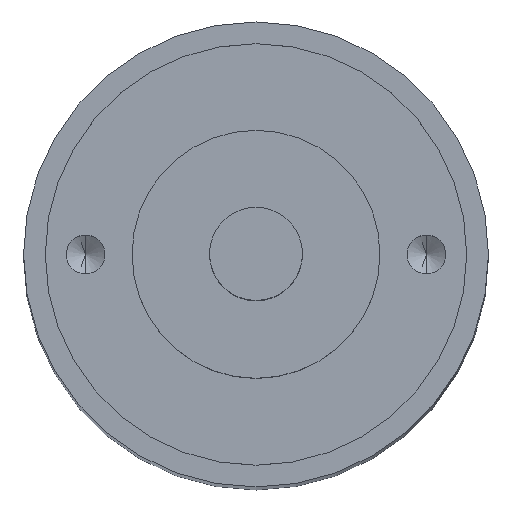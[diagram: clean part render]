
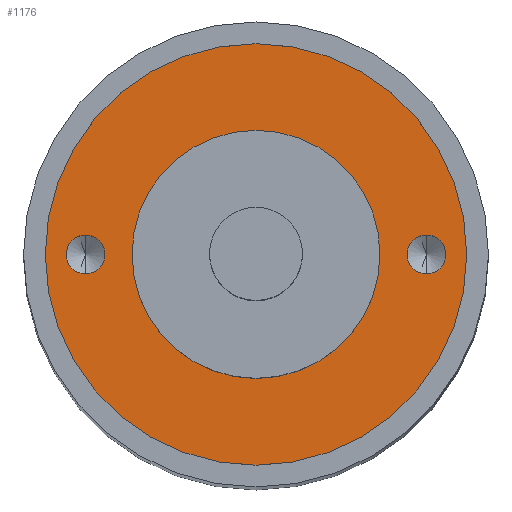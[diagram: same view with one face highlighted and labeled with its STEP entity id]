
A CAD part, top view. The second image highlights one B-rep face of the part: STEP entity #1176.
In plain terms, the highlighted planar face has unit normal (0, 0, 1).
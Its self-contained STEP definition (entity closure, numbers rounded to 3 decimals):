
#7 = AXIS2_PLACEMENT_3D ( 'NONE', #1130, #289, #857 ) ;
#28 = AXIS2_PLACEMENT_3D ( 'NONE', #1128, #659, #1030 ) ;
#77 = EDGE_CURVE ( 'NONE', #657, #359, #1164, .T. ) ;
#81 = CIRCLE ( 'NONE', #185, 0.625 ) ;
#87 = EDGE_CURVE ( 'NONE', #503, #995, #960, .T. ) ;
#117 = CARTESIAN_POINT ( 'NONE',  ( -5.5, 0., 0. ) ) ;
#137 = CARTESIAN_POINT ( 'NONE',  ( 5.5, 0., 0. ) ) ;
#153 = ORIENTED_EDGE ( 'NONE', *, *, #363, .F. ) ;
#163 = EDGE_LOOP ( 'NONE', ( #355, #756 ) ) ;
#185 = AXIS2_PLACEMENT_3D ( 'NONE', #337, #790, #979 ) ;
#191 = EDGE_CURVE ( 'NONE', #909, #1218, #901, .T. ) ;
#213 = CARTESIAN_POINT ( 'NONE',  ( 5.5, 0., 0. ) ) ;
#231 = EDGE_LOOP ( 'NONE', ( #153, #719 ) ) ;
#276 = PLANE ( 'NONE',  #28 ) ;
#287 = CIRCLE ( 'NONE', #1129, 4. ) ;
#289 = DIRECTION ( 'NONE',  ( 0., 0., -1. ) ) ;
#323 = AXIS2_PLACEMENT_3D ( 'NONE', #137, #528, #419 ) ;
#337 = CARTESIAN_POINT ( 'NONE',  ( -5.5, 0., 0. ) ) ;
#355 = ORIENTED_EDGE ( 'NONE', *, *, #698, .F. ) ;
#359 = VERTEX_POINT ( 'NONE', #891 ) ;
#363 = EDGE_CURVE ( 'NONE', #359, #657, #843, .T. ) ;
#366 = FACE_BOUND ( 'NONE', #533, .T. ) ;
#380 = ORIENTED_EDGE ( 'NONE', *, *, #87, .F. ) ;
#400 = CARTESIAN_POINT ( 'NONE',  ( -5.5, -0.625, 0. ) ) ;
#419 = DIRECTION ( 'NONE',  ( 0., -1., 0. ) ) ;
#469 = AXIS2_PLACEMENT_3D ( 'NONE', #117, #1158, #889 ) ;
#489 = CIRCLE ( 'NONE', #7, 6.8 ) ;
#503 = VERTEX_POINT ( 'NONE', #400 ) ;
#517 = DIRECTION ( 'NONE',  ( 0., 0., -1. ) ) ;
#528 = DIRECTION ( 'NONE',  ( 0., 0., 1. ) ) ;
#533 = EDGE_LOOP ( 'NONE', ( #380, #785 ) ) ;
#538 = CARTESIAN_POINT ( 'NONE',  ( 0., -6.8, 0. ) ) ;
#555 = AXIS2_PLACEMENT_3D ( 'NONE', #791, #517, #980 ) ;
#601 = DIRECTION ( 'NONE',  ( 0., -1., 0. ) ) ;
#605 = EDGE_LOOP ( 'NONE', ( #933, #1181 ) ) ;
#614 = EDGE_CURVE ( 'NONE', #995, #503, #81, .T. ) ;
#619 = DIRECTION ( 'NONE',  ( 0., 0., -1. ) ) ;
#657 = VERTEX_POINT ( 'NONE', #886 ) ;
#659 = DIRECTION ( 'NONE',  ( 0., 0., 1. ) ) ;
#698 = EDGE_CURVE ( 'NONE', #948, #1031, #489, .T. ) ;
#719 = ORIENTED_EDGE ( 'NONE', *, *, #77, .F. ) ;
#724 = DIRECTION ( 'NONE',  ( 0., 1., 0. ) ) ;
#748 = FACE_BOUND ( 'NONE', #605, .T. ) ;
#756 = ORIENTED_EDGE ( 'NONE', *, *, #854, .F. ) ;
#785 = ORIENTED_EDGE ( 'NONE', *, *, #614, .F. ) ;
#790 = DIRECTION ( 'NONE',  ( 0., 0., 1. ) ) ;
#791 = CARTESIAN_POINT ( 'NONE',  ( 0., 0., 0. ) ) ;
#843 = CIRCLE ( 'NONE', #323, 0.625 ) ;
#854 = EDGE_CURVE ( 'NONE', #1031, #948, #965, .T. ) ;
#855 = FACE_OUTER_BOUND ( 'NONE', #163, .T. ) ;
#857 = DIRECTION ( 'NONE',  ( 0., 1., 0. ) ) ;
#875 = CARTESIAN_POINT ( 'NONE',  ( 0., 0., 0. ) ) ;
#881 = DIRECTION ( 'NONE',  ( 0., 0., -1. ) ) ;
#886 = CARTESIAN_POINT ( 'NONE',  ( 5.5, 0.625, 0. ) ) ;
#889 = DIRECTION ( 'NONE',  ( 0., -1., 0. ) ) ;
#891 = CARTESIAN_POINT ( 'NONE',  ( 5.5, -0.625, 0. ) ) ;
#901 = CIRCLE ( 'NONE', #1186, 4. ) ;
#909 = VERTEX_POINT ( 'NONE', #1064 ) ;
#933 = ORIENTED_EDGE ( 'NONE', *, *, #191, .T. ) ;
#948 = VERTEX_POINT ( 'NONE', #974 ) ;
#956 = EDGE_CURVE ( 'NONE', #1218, #909, #287, .T. ) ;
#960 = CIRCLE ( 'NONE', #469, 0.625 ) ;
#965 = CIRCLE ( 'NONE', #555, 6.8 ) ;
#974 = CARTESIAN_POINT ( 'NONE',  ( 0., 6.8, 0. ) ) ;
#977 = DIRECTION ( 'NONE',  ( 0., 0., 1. ) ) ;
#978 = AXIS2_PLACEMENT_3D ( 'NONE', #213, #977, #601 ) ;
#979 = DIRECTION ( 'NONE',  ( 0., -1., 0. ) ) ;
#980 = DIRECTION ( 'NONE',  ( 0., 1., 0. ) ) ;
#995 = VERTEX_POINT ( 'NONE', #1097 ) ;
#996 = CARTESIAN_POINT ( 'NONE',  ( 0., 0., 0. ) ) ;
#1030 = DIRECTION ( 'NONE',  ( 0., -1., 0. ) ) ;
#1031 = VERTEX_POINT ( 'NONE', #538 ) ;
#1064 = CARTESIAN_POINT ( 'NONE',  ( 0., 4., 0. ) ) ;
#1097 = CARTESIAN_POINT ( 'NONE',  ( -5.5, 0.625, 0. ) ) ;
#1128 = CARTESIAN_POINT ( 'NONE',  ( 0., 4., 0. ) ) ;
#1129 = AXIS2_PLACEMENT_3D ( 'NONE', #875, #881, #1165 ) ;
#1130 = CARTESIAN_POINT ( 'NONE',  ( 0., 0., 0. ) ) ;
#1145 = CARTESIAN_POINT ( 'NONE',  ( 0., -4., 0. ) ) ;
#1158 = DIRECTION ( 'NONE',  ( 0., 0., 1. ) ) ;
#1164 = CIRCLE ( 'NONE', #978, 0.625 ) ;
#1165 = DIRECTION ( 'NONE',  ( 0., 1., 0. ) ) ;
#1176 = ADVANCED_FACE ( 'NONE', ( #1208, #366, #748, #855 ), #276, .T. ) ;
#1181 = ORIENTED_EDGE ( 'NONE', *, *, #956, .T. ) ;
#1186 = AXIS2_PLACEMENT_3D ( 'NONE', #996, #619, #724 ) ;
#1208 = FACE_BOUND ( 'NONE', #231, .T. ) ;
#1218 = VERTEX_POINT ( 'NONE', #1145 ) ;
